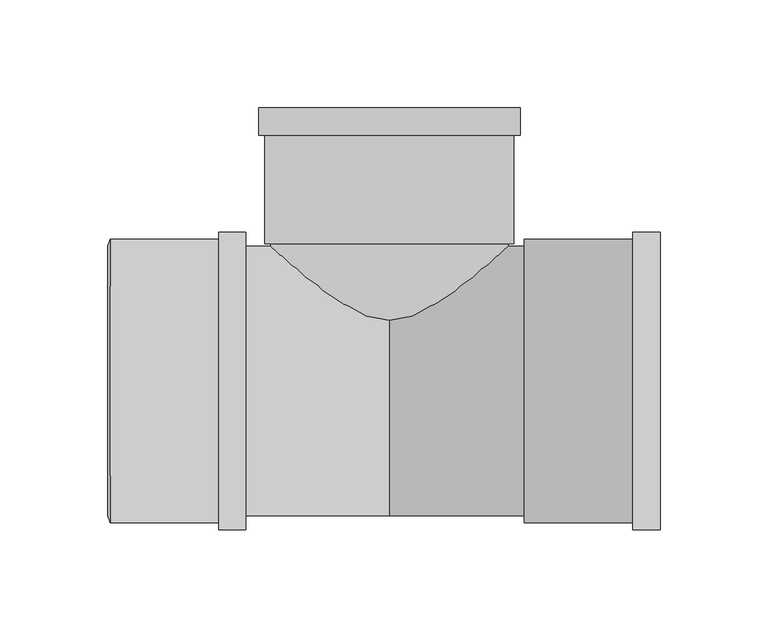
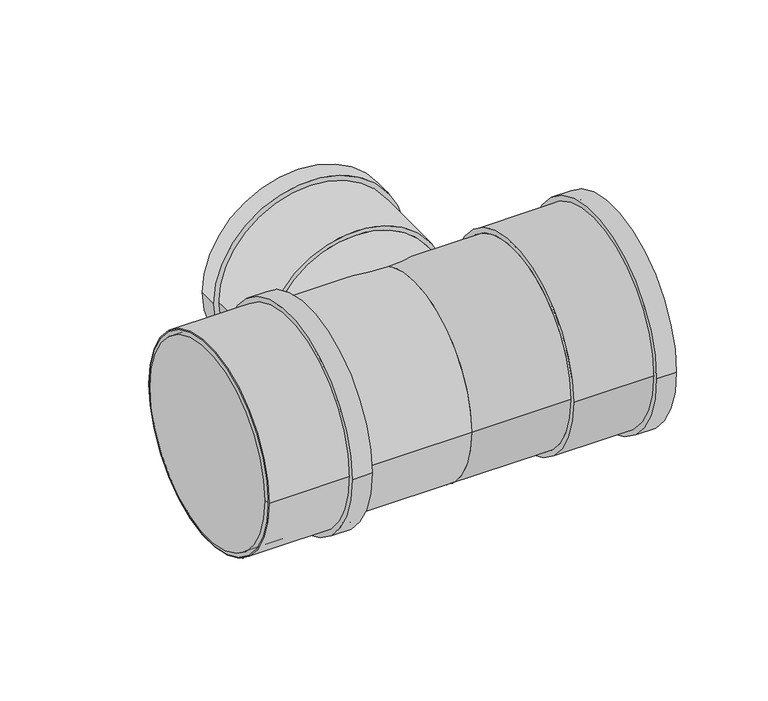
"""IFC4 building model written with IfcOpenShell, lengths in millimetres: pipe fitting geometry, Superdrain HTEA Branch : Superdrain HTEA Branch."""

from ifc_helpers import new_model, si_unit, point, frame, origin, origin_2d, place, context, project, spatial, polyline, circle_curve, trimmed, segment, composite_curve, outline, extrude, source, transform, mapped, element, save
from ifc_brep_helpers import plane_surface, revolved_surface, advanced_brep


def pipe_fitting_79e6566c(model_context):
    return source(origin(), model_context, "Body", "SolidModel", [
        extrude(outline(composite_curve([segment(trimmed(circle_curve(origin_2d(), 65.625), [point((65.625, 0.0))], [point((-65.625, 0.0))], False, "CARTESIAN"), True, "CONTINUOUS"), segment(trimmed(circle_curve(origin_2d(), 65.625), [point((-65.625, 0.0))], [point((65.625, 0.0))], False, "CARTESIAN"), True, "CONTINUOUS")], self_intersect=False), holes=[composite_curve([segment(trimmed(circle_curve(origin_2d(), 62.5), [point((62.5, 0.0))], [point((-62.5, 0.0))], True, "CARTESIAN"), True, "CONTINUOUS"), segment(trimmed(circle_curve(origin_2d(), 62.5), [point((-62.5, 0.0))], [point((62.5, 0.0))], True, "CARTESIAN"), True, "CONTINUOUS")], self_intersect=False)]), frame((-129.5, 0.0, 0.0), z_axis=(1.0, 0.0, 0.0), x_axis=(0.0, 1.0, 0.0)), (0.0, 0.0, 1.0), 63.0),
        extrude(outline(composite_curve([segment(trimmed(circle_curve(origin_2d(), 68.90625), [point((68.90625, 0.0))], [point((-68.90625, 0.0))], False, "CARTESIAN"), True, "CONTINUOUS"), segment(trimmed(circle_curve(origin_2d(), 68.90625), [point((-68.90625, 0.0))], [point((68.90625, 0.0))], False, "CARTESIAN"), True, "CONTINUOUS")], self_intersect=False), holes=[composite_curve([segment(trimmed(circle_curve(origin_2d(), 62.5), [point((62.5, 0.0))], [point((-62.5, 0.0))], True, "CARTESIAN"), True, "CONTINUOUS"), segment(trimmed(circle_curve(origin_2d(), 62.5), [point((-62.5, 0.0))], [point((62.5, 0.0))], True, "CARTESIAN"), True, "CONTINUOUS")], self_intersect=False)]), frame((-79.1, 0.0, 0.0), z_axis=(1.0, 0.0, 0.0), x_axis=(0.0, 1.0, 0.0)), (0.0, 0.0, 1.0), 12.6),
        advanced_brep(
        [(-130.5, 62.5, 0.0), (-130.5, -62.5, 0.0), (-129.5, 65.625, 0.0), (-129.5, -65.625, 0.0)],
        [
            (0, 1, circle_curve(frame((-130.5, 0.0, 0.0), z_axis=(-1.0, 0.0, 0.0), x_axis=(0.0, 1.0000000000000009, 0.0)), 62.5)),
            (1, 0, circle_curve(frame((-130.5, 0.0, 0.0), z_axis=(-1.0, 0.0, 0.0), x_axis=(0.0, -1.0000000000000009, 0.0)), 62.5)),
            (2, 3, circle_curve(frame((-129.5, 0.0, 0.0), z_axis=(1.0, 0.0, 0.0), x_axis=(0.0, -1.0000000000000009, 0.0)), 65.625)),
            (3, 2, circle_curve(frame((-129.5, 0.0, 0.0), z_axis=(1.0, 0.0, 0.0), x_axis=(0.0, 1.0000000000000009, 0.0)), 65.625)),
            (3, 1),
            (0, 2),
        ],
        [
            plane_surface(frame((-130.5, 0.0, 0.0), z_axis=(-1.0, 0.0, 0.0), x_axis=(0.0, 0.0, -1.0))),
            plane_surface(frame((-129.5, 0.0, 0.0), z_axis=(1.0, 0.0, 0.0), x_axis=(0.0, 0.0, -1.0))),
            revolved_surface(polyline([(-130.5, 62.499999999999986, 0.0), (-129.5, 65.625, 0.0)]), (-150.5, 0.0, 0.0), (1.0000000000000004, 0.0, 0.0)),
            revolved_surface(polyline([(-130.5, -62.499999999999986, 0.0), (-129.5, -65.625, 0.0)]), (-150.5, 0.0, 0.0), (1.0000000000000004, 0.0, 0.0)),
        ],
        [
            (0, [[1, 2]]),
            (1, [[3, 4]]),
            (2, [[-4, 5, -1, 6]]),
            (3, [[-3, -6, -2, -5]]),
        ],
    ),
        extrude(outline(composite_curve([segment(trimmed(circle_curve(origin_2d(), 65.625), [point((-65.625, 0.0))], [point((65.625, 0.0))], False, "CARTESIAN"), True, "CONTINUOUS"), segment(trimmed(circle_curve(origin_2d(), 65.625), [point((65.625, 0.0))], [point((-65.625, 0.0))], False, "CARTESIAN"), True, "CONTINUOUS")], self_intersect=False), holes=[composite_curve([segment(trimmed(circle_curve(origin_2d(), 62.5), [point((62.5, 0.0))], [point((-62.5, 0.0))], True, "CARTESIAN"), True, "CONTINUOUS"), segment(trimmed(circle_curve(origin_2d(), 62.5), [point((-62.5, 0.0))], [point((62.5, 0.0))], True, "CARTESIAN"), True, "CONTINUOUS")], self_intersect=False)]), frame((62.5, 0.0, 0.0), z_axis=(1.0, 0.0, 0.0), x_axis=(0.0, 1.0, 0.0)), (0.0, 0.0, 1.0), 63.0),
        extrude(outline(composite_curve([segment(trimmed(circle_curve(origin_2d(), 68.90625), [point((68.90625, 0.0))], [point((-68.90625, 0.0))], False, "CARTESIAN"), True, "CONTINUOUS"), segment(trimmed(circle_curve(origin_2d(), 68.90625), [point((-68.90625, 0.0))], [point((68.90625, 0.0))], False, "CARTESIAN"), True, "CONTINUOUS")], self_intersect=False), holes=[composite_curve([segment(trimmed(circle_curve(origin_2d(), 62.5), [point((62.5, 0.0))], [point((-62.5, 0.0))], True, "CARTESIAN"), True, "CONTINUOUS"), segment(trimmed(circle_curve(origin_2d(), 62.5), [point((-62.5, 0.0))], [point((62.5, 0.0))], True, "CARTESIAN"), True, "CONTINUOUS")], self_intersect=False)]), frame((112.9, 0.0, 0.0), z_axis=(1.0, 0.0, 0.0), x_axis=(0.0, 1.0, 0.0)), (0.0, 0.0, 1.0), 12.6),
        extrude(outline(composite_curve([segment(trimmed(circle_curve(origin_2d(), 55.0), [point((0.0, 55.0))], [point((0.0, -55.0))], False, "CARTESIAN"), True, "CONTINUOUS"), segment(trimmed(circle_curve(origin_2d(), 55.0), [point((0.0, -55.0))], [point((0.0, 55.0))], False, "CARTESIAN"), True, "CONTINUOUS")], self_intersect=False)), frame((0.0, 0.0, 0.0), z_axis=(0.0, 1.0, 0.0), x_axis=(0.0, 0.0, 1.0)), (0.0, 0.0, 1.0), 63.6),
        extrude(outline(composite_curve([segment(trimmed(circle_curve(origin_2d(), 62.5), [point((62.5, 0.0))], [point((-62.5, 0.0))], False, "CARTESIAN"), True, "CONTINUOUS"), segment(trimmed(circle_curve(origin_2d(), 62.5), [point((-62.5, 0.0))], [point((62.5, 0.0))], False, "CARTESIAN"), True, "CONTINUOUS")], self_intersect=False)), frame((-129.5, 0.0, 0.0), z_axis=(1.0, 0.0, 0.0), x_axis=(0.0, 1.0, 0.0)), (0.0, 0.0, 1.0), 129.5),
        extrude(outline(composite_curve([segment(trimmed(circle_curve(origin_2d(), 62.5), [point((-62.5, 0.0))], [point((62.5, 0.0))], False, "CARTESIAN"), True, "CONTINUOUS"), segment(trimmed(circle_curve(origin_2d(), 62.5), [point((62.5, 0.0))], [point((-62.5, 0.0))], False, "CARTESIAN"), True, "CONTINUOUS")], self_intersect=False)), frame((0.0, 0.0, 0.0), z_axis=(1.0, 0.0, 0.0), x_axis=(0.0, 1.0, 0.0)), (0.0, 0.0, 1.0), 62.5),
        extrude(outline(composite_curve([segment(trimmed(circle_curve(origin_2d(), 60.6375), [point((0.0, 60.6375))], [point((0.0, -60.6375))], False, "CARTESIAN"), True, "CONTINUOUS"), segment(trimmed(circle_curve(origin_2d(), 60.6375), [point((0.0, -60.6375))], [point((0.0, 60.6375))], False, "CARTESIAN"), True, "CONTINUOUS")], self_intersect=False), holes=[composite_curve([segment(trimmed(circle_curve(origin_2d(), 55.0), [point((0.0, 55.0))], [point((0.0, -55.0))], True, "CARTESIAN"), True, "CONTINUOUS"), segment(trimmed(circle_curve(origin_2d(), 55.0), [point((0.0, -55.0))], [point((0.0, 55.0))], True, "CARTESIAN"), True, "CONTINUOUS")], self_intersect=False)]), frame((0.0, 114.0, 0.0), z_axis=(0.0, 1.0, 0.0), x_axis=(0.0, 0.0, 1.0)), (0.0, 0.0, 1.0), 12.6),
        extrude(outline(composite_curve([segment(trimmed(circle_curve(origin_2d(), 57.75), [point((0.0, 57.75))], [point((0.0, -57.75))], False, "CARTESIAN"), True, "CONTINUOUS"), segment(trimmed(circle_curve(origin_2d(), 57.75), [point((0.0, -57.75))], [point((0.0, 57.75))], False, "CARTESIAN"), True, "CONTINUOUS")], self_intersect=False), holes=[composite_curve([segment(trimmed(circle_curve(origin_2d(), 55.0), [point((0.0, 55.0))], [point((0.0, -55.0))], True, "CARTESIAN"), True, "CONTINUOUS"), segment(trimmed(circle_curve(origin_2d(), 55.0), [point((0.0, -55.0))], [point((0.0, 55.0))], True, "CARTESIAN"), True, "CONTINUOUS")], self_intersect=False)]), frame((0.0, 63.6, 0.0), z_axis=(0.0, 1.0, 0.0), x_axis=(0.0, 0.0, 1.0)), (0.0, 0.0, 1.0), 63.0),
    ])


if __name__ == "__main__":
    model = new_model("IFC4")
    model_context = context("Model", 3, world=origin())
    ifc_project = project(units=[si_unit("LENGTHUNIT", "METRE", prefix="MILLI")], contexts=[model_context])
    site = spatial("IfcSite", under=ifc_project)
    building = spatial("IfcBuilding", under=site)
    placement = place(None, origin())
    pipe_fitting_shape = pipe_fitting_79e6566c(model_context)
    element("IfcPipeFitting", 1, ObjectType="Superdrain HTEA Branch : Superdrain HTEA Branch", at=placement, inside=building, context=model_context, shape_type="MappedRepresentation", body=[
        mapped(pipe_fitting_shape, transform((0.0, 0.0, 0.0), x_axis=(1.0, 0.0, 0.0), y_axis=(0.0, 1.0, 0.0), z_axis=(0.0, 0.0, 1.0))),
    ])
    save(model, "model.ifc")
